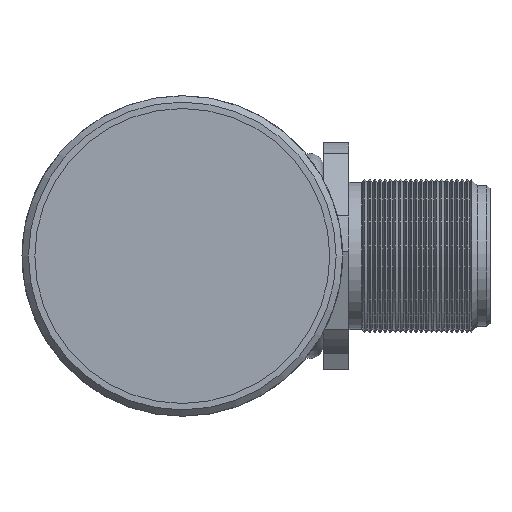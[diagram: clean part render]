
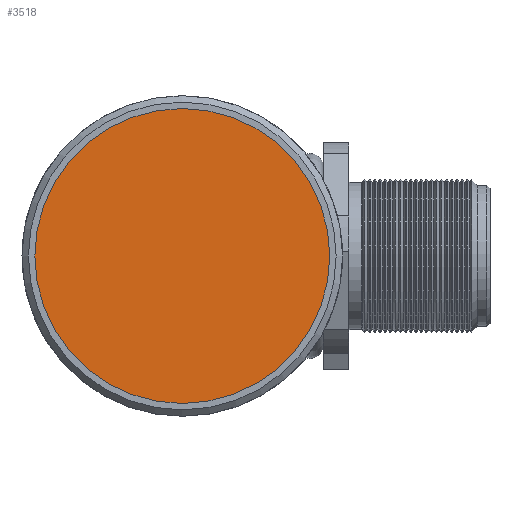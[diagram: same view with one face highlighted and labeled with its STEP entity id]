
A CAD part, left-side view. The second image highlights one B-rep face of the part: STEP entity #3518.
In plain terms, the highlighted planar face has unit normal (-1, 0, 0).
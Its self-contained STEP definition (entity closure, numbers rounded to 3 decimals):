
#700=PLANE('',#3800);
#847=VERTEX_POINT('',#4187);
#1165=CIRCLE('',#3799,11.5);
#1337=EDGE_CURVE('',#847,#847,#1165,.T.);
#1821=ORIENTED_EDGE('',*,*,#1337,.T.);
#2761=EDGE_LOOP('',(#1821));
#3146=FACE_BOUND('',#2761,.T.);
#3518=ADVANCED_FACE('',(#3146),#700,.F.);
#3799=AXIS2_PLACEMENT_3D('',#4186,#5847,#5848);
#3800=AXIS2_PLACEMENT_3D('',#4188,#5849,$);
#4186=CARTESIAN_POINT('',(-34.,0.,0.));
#4187=CARTESIAN_POINT('',(-34.,0.,-11.5));
#4188=CARTESIAN_POINT('',(-34.,0.,0.));
#5847=DIRECTION('',(-1.,0.,0.));
#5848=DIRECTION('',(0.,0.,-11.5));
#5849=DIRECTION('',(1.,0.,0.));
